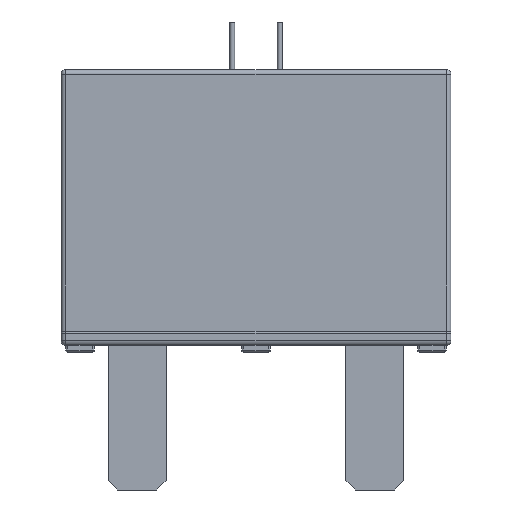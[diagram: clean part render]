
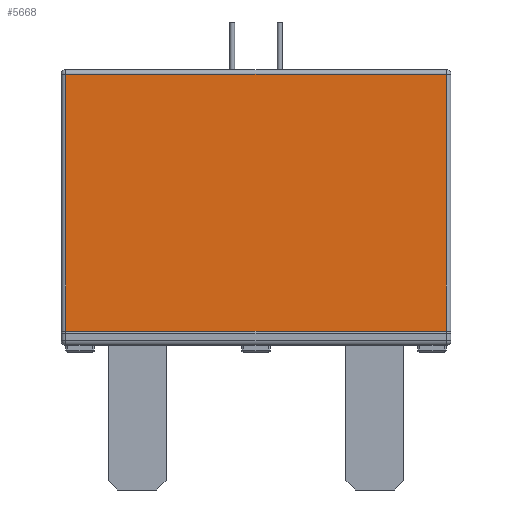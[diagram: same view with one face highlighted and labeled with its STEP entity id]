
A CAD part, front view. The second image highlights one B-rep face of the part: STEP entity #5668.
In plain terms, the highlighted planar face has unit normal (0, -1, 0).
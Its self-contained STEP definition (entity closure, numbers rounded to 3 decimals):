
#68=DIRECTION('',(1.,0.,0.));
#69=VECTOR('',#68,40.);
#70=CARTESIAN_POINT('',(-20.,-7.,1.5));
#71=LINE('',#70,#69);
#238=DIRECTION('',(1.,0.,0.));
#239=VECTOR('',#238,40.);
#240=CARTESIAN_POINT('',(-20.,-7.,28.5));
#241=LINE('',#240,#239);
#245=DIRECTION('',(0.,0.,1.));
#246=VECTOR('',#245,27.);
#247=CARTESIAN_POINT('',(-20.,-7.,1.5));
#248=LINE('',#247,#246);
#276=DIRECTION('',(0.,0.,1.));
#277=VECTOR('',#276,27.);
#278=CARTESIAN_POINT('',(20.,-7.,1.5));
#279=LINE('',#278,#277);
#5181=CARTESIAN_POINT('',(-20.,-7.,1.5));
#5182=VERTEX_POINT('',#5181);
#5183=CARTESIAN_POINT('',(20.,-7.,1.5));
#5184=VERTEX_POINT('',#5183);
#5383=CARTESIAN_POINT('',(-20.,-7.,28.5));
#5384=VERTEX_POINT('',#5383);
#5387=CARTESIAN_POINT('',(20.,-7.,28.5));
#5388=VERTEX_POINT('',#5387);
#5655=CARTESIAN_POINT('',(-20.,-7.,1.5));
#5656=DIRECTION('',(0.,-1.,0.));
#5657=DIRECTION('',(1.,0.,0.));
#5658=AXIS2_PLACEMENT_3D('',#5655,#5656,#5657);
#5659=PLANE('',#5658);
#5661=ORIENTED_EDGE('',*,*,#5660,.T.);
#5663=ORIENTED_EDGE('',*,*,#5662,.F.);
#5664=ORIENTED_EDGE('',*,*,#5446,.F.);
#5665=ORIENTED_EDGE('',*,*,#5647,.T.);
#5666=EDGE_LOOP('',(#5661,#5663,#5664,#5665));
#5667=FACE_OUTER_BOUND('',#5666,.F.);
#5668=ADVANCED_FACE('',(#5667),#5659,.T.);
#5446=EDGE_CURVE('',#5182,#5184,#71,.T.);
#5647=EDGE_CURVE('',#5182,#5384,#248,.T.);
#5660=EDGE_CURVE('',#5384,#5388,#241,.T.);
#5662=EDGE_CURVE('',#5184,#5388,#279,.T.);
